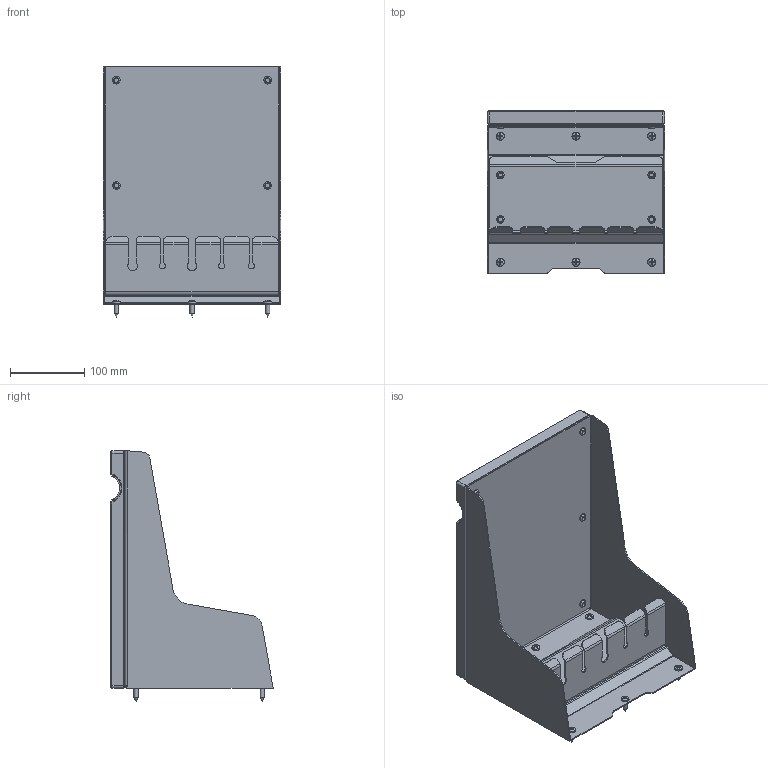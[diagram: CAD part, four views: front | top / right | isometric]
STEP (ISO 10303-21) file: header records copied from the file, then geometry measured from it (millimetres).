
FILE_DESCRIPTION (( 'STEP AP214' ), '1' );
FILE_NAME ('MONO_038-a100_02.STEP', '2026-03-17T07:50:48', ( '' ), ( '' ), 'SwSTEP 2.0', 'SolidWorks 2024', '' );
FILE_SCHEMA (( 'AUTOMOTIVE_DESIGN' ));
Length unit declared in the file: millimetre
Products named in the file (11): MONO_038-p112; MONO_038-p101_Default<As Machined>; 12g (5.50mm) Pan Phillips (PH3) Self Tapping Screws; MONO_038-p102; M6 Threaded Wood Insert; MONO_038-a100_02; M6 x 10mm BUT Head Screw_10mm; MONO_038-a120; MONO_038-a110; S-M6-1ZI; MONO_038-p111
Assembly tree (32 placements, depth 3):
  MONO_038-a100_02
    MONO_038-a110
      MONO_038-p111
      MONO_038-p112
      M6 Threaded Wood Insert  x6
    MONO_038-a120
      MONO_038-p101_Default<As Machined>
      S-M6-1ZI  x4
    MONO_038-p102
    12g (5.50mm) Pan Phillips (PH3) Self Tapping Screws  x6
    M6 x 10mm BUT Head Screw_10mm  x10
Bounding box: 240 x 219 x 337.4 mm (x, y, z)
Volume: 1746633.9 mm3; surface area: 666898.5 mm2
Topology: 30 solids, 54 shells, 1456 faces, 3594 edges, 2306 vertices
Faces by surface type: plane 1058, cylinder 212, cone 146, torus 18, sphere 16, bspline 6
Full cylindrical faces by diameter (mm): 5.5 x6, 6 x16, 6.5 x12, 7 x4, 8 x6, 8.75 x4, 10.3 x10
Entity records: 16626 total; most frequent: CARTESIAN_POINT 3141, DIRECTION 2734, ORIENTED_EDGE 2626, EDGE_CURVE 1313, VECTOR 946, LINE 946, AXIS2_PLACEMENT_3D 894, VERTEX_POINT 865
